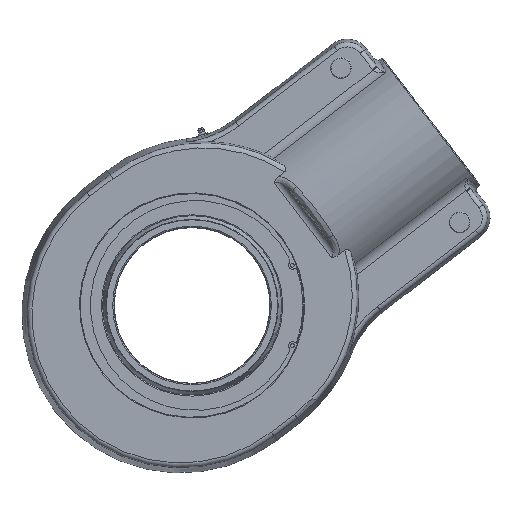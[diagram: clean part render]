
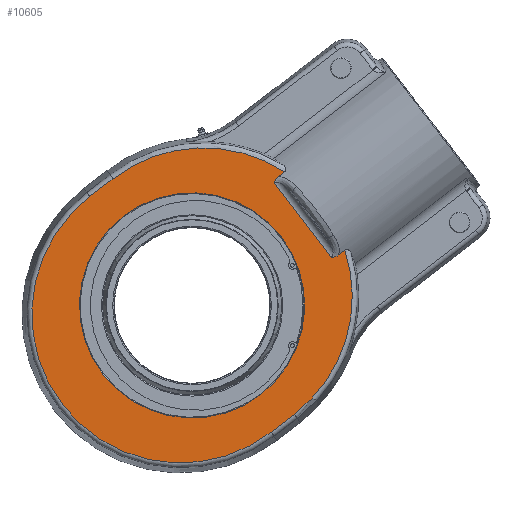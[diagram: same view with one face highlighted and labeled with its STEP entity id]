
A CAD part, left-side view. The second image highlights one B-rep face of the part: STEP entity #10605.
In plain terms, the highlighted planar face has unit normal (-1, 0, 0) as drawn and (0, 0, -1) by its records, which use the part's own axes.
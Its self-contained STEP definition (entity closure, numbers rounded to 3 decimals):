
#4077=CARTESIAN_POINT('',(-50.806,-159.034,-65.0));
#4078=VERTEX_POINT('',#4077);
#4094=CARTESIAN_POINT('',(-50.806,-151.032,-65.));
#4095=VERTEX_POINT('',#4094);
#4096=CARTESIAN_POINT('',(-50.806,-151.032,-65.));
#4097=DIRECTION('',(0.0,-1.0,0.0));
#4098=VECTOR('',#4097,8.001);
#4099=LINE('',#4096,#4098);
#4100=EDGE_CURVE('',#4095,#4078,#4099,.T.);
#4132=CARTESIAN_POINT('',(50.806,-151.032,-65.));
#4133=VERTEX_POINT('',#4132);
#4149=CARTESIAN_POINT('',(50.806,-159.034,-65.0));
#4150=VERTEX_POINT('',#4149);
#4151=CARTESIAN_POINT('',(50.806,-159.034,-65.0));
#4152=DIRECTION('',(0.,1.0,0.));
#4153=VECTOR('',#4152,8.001);
#4154=LINE('',#4151,#4153);
#4155=EDGE_CURVE('',#4150,#4133,#4154,.T.);
#4951=CARTESIAN_POINT('',(0.0,115.7,-65.0));
#4952=VERTEX_POINT('',#4951);
#4953=CARTESIAN_POINT('',(0.0,0.0,-65.0));
#4954=DIRECTION('',(0.0,0.0,1.0));
#4955=DIRECTION('',(0.0,1.0,0.0));
#4956=AXIS2_PLACEMENT_3D('',#4953,#4954,#4955);
#4957=CIRCLE('',#4956,115.7);
#4958=EDGE_CURVE('',#4952,#4952,#4957,.T.);
#9459=CARTESIAN_POINT('',(152.732,15.,-65.0));
#9460=VERTEX_POINT('',#9459);
#9468=CARTESIAN_POINT('',(-152.732,15.,-65.0));
#9469=VERTEX_POINT('',#9468);
#9470=CARTESIAN_POINT('',(0.0,15.,-65.0));
#9471=DIRECTION('',(0.0,0.0,1.0));
#9472=DIRECTION('',(0.0,1.0,0.0));
#9473=AXIS2_PLACEMENT_3D('',#9470,#9471,#9472);
#9474=CIRCLE('',#9473,152.732);
#9475=EDGE_CURVE('',#9460,#9469,#9474,.T.);
#9503=CARTESIAN_POINT('',(152.732,-15.0,-65.0));
#9504=VERTEX_POINT('',#9503);
#9512=CARTESIAN_POINT('',(152.732,-15.0,-65.0));
#9513=DIRECTION('',(0.0,1.0,0.0));
#9514=VECTOR('',#9513,30.);
#9515=LINE('',#9512,#9514);
#9516=EDGE_CURVE('',#9504,#9460,#9515,.T.);
#9533=CARTESIAN_POINT('',(-152.732,-15.0,-65.0));
#9534=VERTEX_POINT('',#9533);
#9551=CARTESIAN_POINT('',(-152.732,15.,-65.0));
#9552=DIRECTION('',(0.0,-1.0,0.0));
#9553=VECTOR('',#9552,30.);
#9554=LINE('',#9551,#9553);
#9555=EDGE_CURVE('',#9469,#9534,#9554,.T.);
#9566=CARTESIAN_POINT('',(0.0,-15.,-65.0));
#9567=DIRECTION('',(0.0,0.0,1.));
#9568=DIRECTION('',(0.813,-0.582,0.0));
#9569=AXIS2_PLACEMENT_3D('',#9566,#9567,#9568);
#9570=CIRCLE('',#9569,152.732);
#9571=EDGE_CURVE('',#4150,#9504,#9570,.T.);
#9598=CARTESIAN_POINT('',(0.0,-15.,-65.0));
#9599=DIRECTION('',(0.0,0.0,1.));
#9600=DIRECTION('',(-0.813,-0.582,0.0));
#9601=AXIS2_PLACEMENT_3D('',#9598,#9599,#9600);
#9602=CIRCLE('',#9601,152.732);
#9603=EDGE_CURVE('',#9534,#4078,#9602,.T.);
#9828=CARTESIAN_POINT('',(-47.971,-143.861,-65.0));
#9829=VERTEX_POINT('',#9828);
#9830=CARTESIAN_POINT('',(-47.971,-143.861,-65.));
#9831=CARTESIAN_POINT('',(-47.976,-143.866,-65.));
#9832=CARTESIAN_POINT('',(-47.98,-143.87,-65.));
#9833=CARTESIAN_POINT('',(-48.439,-144.331,-65.));
#9834=CARTESIAN_POINT('',(-48.842,-144.828,-65.0));
#9835=CARTESIAN_POINT('',(-49.542,-145.904,-65.0));
#9836=CARTESIAN_POINT('',(-49.834,-146.473,-65.));
#9837=CARTESIAN_POINT('',(-50.569,-148.327,-65.));
#9838=CARTESIAN_POINT('',(-50.806,-149.675,-65.0));
#9839=CARTESIAN_POINT('',(-50.806,-151.032,-65.0));
#9840=B_SPLINE_CURVE_WITH_KNOTS('',3,(#9830,#9831,#9832,#9833,#9834,#9835,#9836,#9837,#9838,#9839),.UNSPECIFIED.,.F.,.U.,(4,2,2,2,4),(-0.002,0.0,0.194,0.386,0.793),.UNSPECIFIED.);
#9841=EDGE_CURVE('',#4095,#9829,#9840,.F.);
#10070=CARTESIAN_POINT('',(47.971,-143.861,-65.0));
#10071=VERTEX_POINT('',#10070);
#10072=CARTESIAN_POINT('',(50.806,-151.032,-65.0));
#10073=CARTESIAN_POINT('',(50.806,-150.755,-65.0));
#10074=CARTESIAN_POINT('',(50.796,-150.477,-65.));
#10075=CARTESIAN_POINT('',(50.686,-148.965,-65.));
#10076=CARTESIAN_POINT('',(50.393,-147.754,-65.));
#10077=CARTESIAN_POINT('',(49.522,-145.833,-65.));
#10078=CARTESIAN_POINT('',(48.95,-144.843,-65.0));
#10079=CARTESIAN_POINT('',(47.98,-143.87,-65.0));
#10080=CARTESIAN_POINT('',(47.976,-143.866,-65.0));
#10081=CARTESIAN_POINT('',(47.971,-143.861,-65.0));
#10082=B_SPLINE_CURVE_WITH_KNOTS('',3,(#10072,#10073,#10074,#10075,#10076,#10077,#10078,#10079,#10080,#10081),.UNSPECIFIED.,.F.,.U.,(4,2,2,2,4),(0.0,0.083,0.455,0.717,0.718),.UNSPECIFIED.);
#10083=EDGE_CURVE('',#10071,#4133,#10082,.F.);
#10133=CARTESIAN_POINT('',(-47.971,-143.861,-65.0));
#10134=DIRECTION('',(1.0,0.0,0.0));
#10135=VECTOR('',#10134,95.943);
#10136=LINE('',#10133,#10135);
#10137=EDGE_CURVE('',#9829,#10071,#10136,.T.);
#10585=CARTESIAN_POINT('',(0.,0.,-65.0));
#10586=DIRECTION('',(0.0,0.0,1.0));
#10587=DIRECTION('',(1.0,0.0,0.0));
#10588=AXIS2_PLACEMENT_3D('',#10585,#10586,#10587);
#10589=PLANE('',#10588);
#10590=ORIENTED_EDGE('',*,*,#9571,.F.);
#10591=ORIENTED_EDGE('',*,*,#4155,.T.);
#10592=ORIENTED_EDGE('',*,*,#10083,.F.);
#10593=ORIENTED_EDGE('',*,*,#10137,.F.);
#10594=ORIENTED_EDGE('',*,*,#9841,.F.);
#10595=ORIENTED_EDGE('',*,*,#4100,.T.);
#10596=ORIENTED_EDGE('',*,*,#9603,.F.);
#10597=ORIENTED_EDGE('',*,*,#9555,.F.);
#10598=ORIENTED_EDGE('',*,*,#9475,.F.);
#10599=ORIENTED_EDGE('',*,*,#9516,.F.);
#10600=EDGE_LOOP('',(#10590,#10591,#10592,#10593,#10594,#10595,#10596,#10597,#10598,#10599));
#10601=FACE_OUTER_BOUND('',#10600,.T.);
#10602=ORIENTED_EDGE('',*,*,#4958,.T.);
#10603=EDGE_LOOP('',(#10602));
#10604=FACE_BOUND('',#10603,.T.);
#10605=ADVANCED_FACE('',(#10601,#10604),#10589,.F.);
